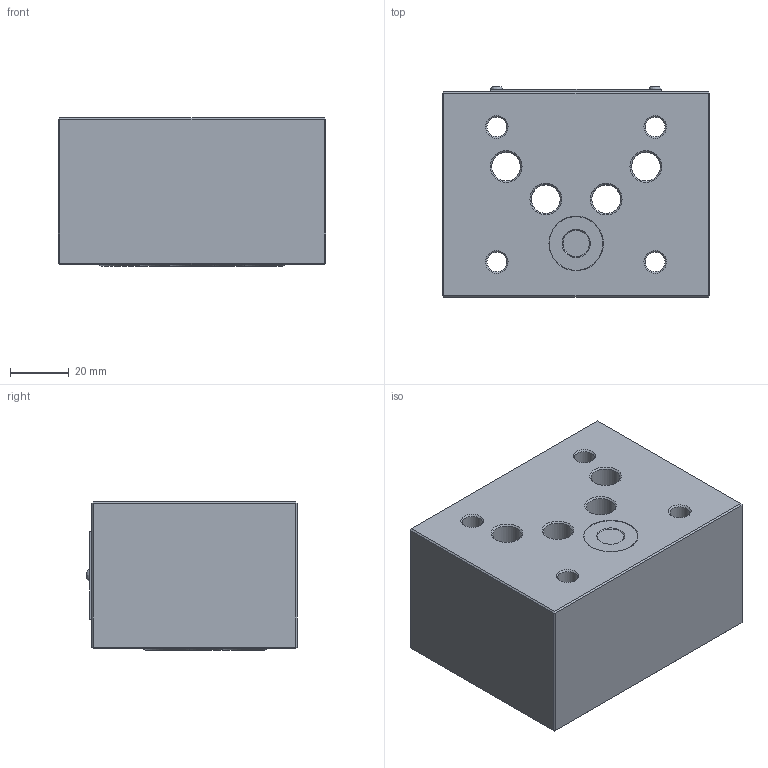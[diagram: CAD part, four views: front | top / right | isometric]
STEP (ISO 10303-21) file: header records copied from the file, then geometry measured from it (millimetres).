
FILE_DESCRIPTION(/* description */ (''),/* implementation_level */ '2;1');
FILE_NAME(/* name */ 'Z1S10P叠加式单向阀.prt.stp',/* time_stamp */ '2022-03-30T19:25:31+08:00',/* author */ (''),/* organization */ (''),/* preprocessor_version */ 'ST-DEVELOPER v16.7',/* originating_system */ 'SIEMENS PLM Software NX 12.0',/* authorisation */ '');
FILE_SCHEMA (('AUTOMOTIVE_DESIGN { 1 0 10303 214 3 1 1 1 }'));
Length unit declared in the file: millimetre
Products named in the file (1): Z1S10P叠加式单向阀
Bounding box: 91 x 71.8 x 50.5 mm (x, y, z)
Volume: 302906 mm3; surface area: 48189.4 mm2
Topology: 15 solids, 15 shells, 150 faces, 307 edges, 178 vertices
Faces by surface type: plane 63, cylinder 38, cone 32, bspline 9, torus 8
Full cylindrical faces by diameter (mm): 1.8 x4, 2 x2, 5 x4, 6.7 x4, 9 x1, 9.8 x5, 14 x1, 15 x1, 15.3 x2, 15.7 x5, 18 x6, 18.2 x2, 18.3 x1
Entity records: 5642 total; most frequent: CARTESIAN_POINT 2773, DIRECTION 580, ORIENTED_EDGE 394, EDGE_LOOP 260, AXIS2_PLACEMENT_3D 253, FACE_BOUND 229, EDGE_CURVE 197, VERTEX_POINT 166
